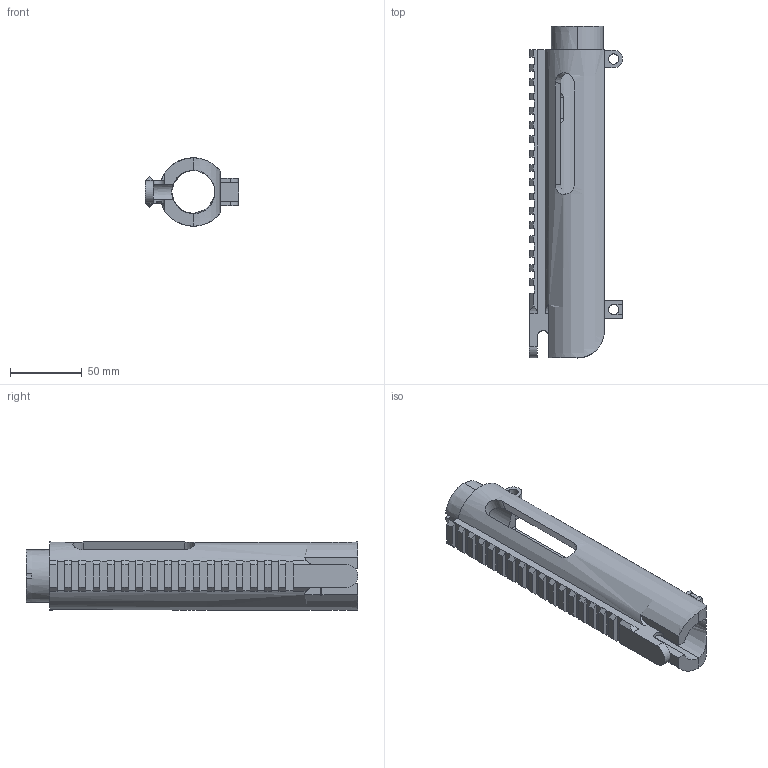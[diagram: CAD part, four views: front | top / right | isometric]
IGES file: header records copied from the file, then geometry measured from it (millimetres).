
Start section:  PTC IGES file: ar10_upper_reciever.igs
Global section: file name: ar10_upper_reciever.igs; native system: Pro/ENGINEER by Parametric Technology Corporation; preprocessor: 2004360; author: Eric; organization: Unknown; date: 071029.212305; units: inch
Bounding box: 64.91 x 231.5 x 47.62 mm (x, y, z)
Volume: 185226 mm3; surface area: 67360.3 mm2
Topology: 1 solids, 1 shells, 221 faces, 685 edges, 499 vertices
Faces by surface type: bspline 175, revolution 46
